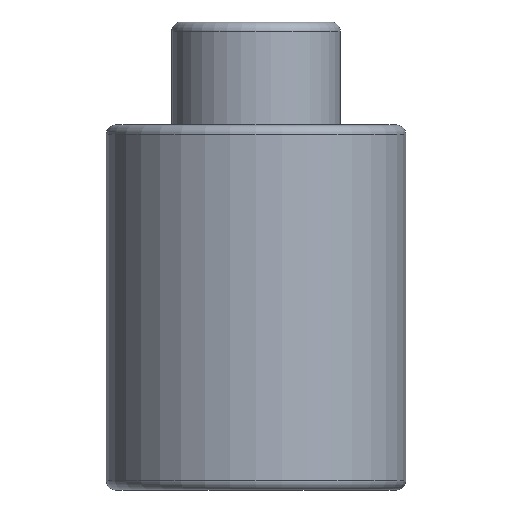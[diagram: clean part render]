
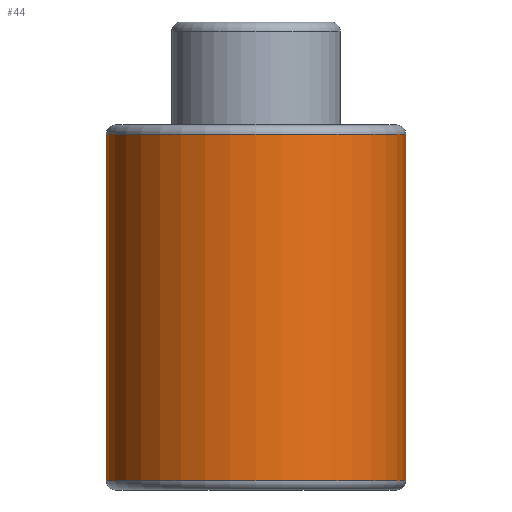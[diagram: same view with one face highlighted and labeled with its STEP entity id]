
A CAD part, front view. The second image highlights one B-rep face of the part: STEP entity #44.
In plain terms, the highlighted cylindrical face has radius 16 mm (diameter 32 mm), a full revolution.
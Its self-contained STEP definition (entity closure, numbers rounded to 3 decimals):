
#44=ADVANCED_FACE('',(#60,#61),#56,.T.);
#56=CYLINDRICAL_SURFACE('',#166,16.);
#60=FACE_BOUND('',#84,.T.);
#61=FACE_BOUND('',#85,.T.);
#84=EDGE_LOOP('',(#106));
#85=EDGE_LOOP('',(#107));
#106=ORIENTED_EDGE('',*,*,#141,.F.);
#107=ORIENTED_EDGE('',*,*,#142,.T.);
#128=VERTEX_POINT('',#237);
#129=VERTEX_POINT('',#239);
#141=EDGE_CURVE('',#128,#128,#152,.T.);
#142=EDGE_CURVE('',#129,#129,#153,.T.);
#152=CIRCLE('',#164,16.);
#153=CIRCLE('',#165,16.);
#164=AXIS2_PLACEMENT_3D('',#236,#189,#190);
#165=AXIS2_PLACEMENT_3D('',#238,#191,#192);
#166=AXIS2_PLACEMENT_3D('',#240,#193,#194);
#189=DIRECTION('',(0.,0.,-1.));
#190=DIRECTION('',(-1.,0.,0.));
#191=DIRECTION('',(0.,0.,-1.));
#192=DIRECTION('',(-1.,0.,0.));
#193=DIRECTION('',(0.,0.,-1.));
#194=DIRECTION('',(-1.,0.,0.));
#236=CARTESIAN_POINT('',(0.,0.,1.));
#237=CARTESIAN_POINT('',(-16.,0.,1.));
#238=CARTESIAN_POINT('',(0.,0.,38.));
#239=CARTESIAN_POINT('',(-16.,0.,38.));
#240=CARTESIAN_POINT('',(0.,0.,0.));
